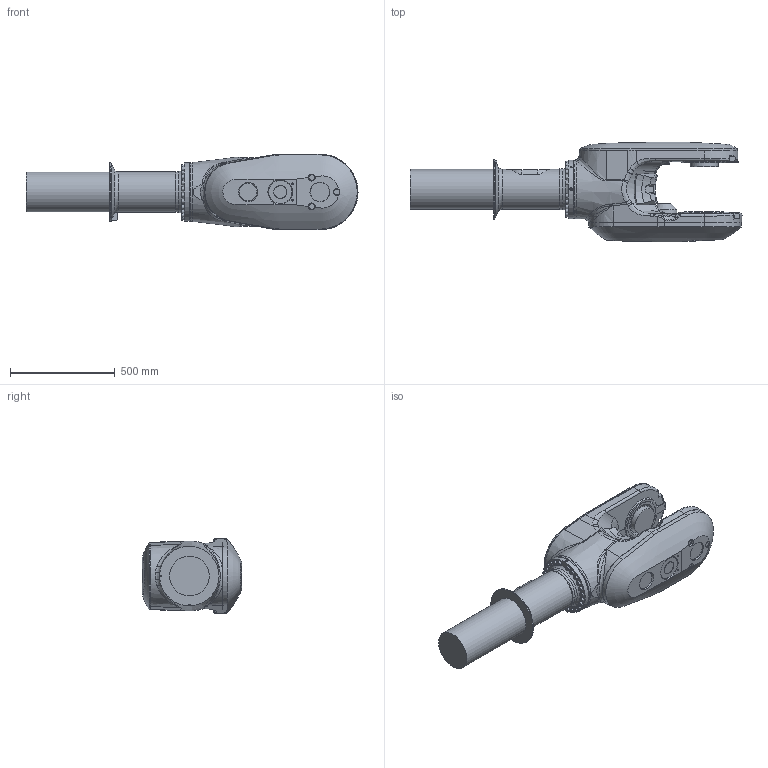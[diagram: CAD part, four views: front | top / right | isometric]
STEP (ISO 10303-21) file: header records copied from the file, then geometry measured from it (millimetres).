
FILE_DESCRIPTION (( 'STEP AP214' ), '1' );
FILE_NAME ('IRB7710_All-285_OC_00_LINK04_CAD.step', '2026-01-28T09:31:09', ( '' ), ( '' ), 'SwSTEP 2.0', 'SolidWorks 2024', '' );
FILE_SCHEMA (( 'AUTOMOTIVE_DESIGN' ));
Length unit declared in the file: millimetre
Products named in the file (1): IRB7710_All-285_OC_00_LINK04_CAD
Bounding box: 1586.38 x 475.5 x 362.3 mm (x, y, z)
Volume: 92612131.2 mm3; surface area: 1925910.5 mm2
Topology: 1 solids, 1 shells, 631 faces, 1592 edges, 1028 vertices
Faces by surface type: plane 265, bspline 142, cylinder 115, cone 103, torus 6
Full cylindrical faces by diameter (mm): 4.8 x2, 6.8 x4, 8.3 x2, 10.5 x1, 12 x3, 17.9 x2, 18 x2, 18.27 x25, 24 x1, 27 x1, 28 x4, 90 x1, 134 x1, 140 x1, 189.5 x1, 190 x3, 192 x1, 195 x1, 280 x2
Entity records: 36587 total; most frequent: CARTESIAN_POINT 16879, ORIENTED_EDGE 2828, DIRECTION 2176, EDGE_CURVE 1414, VERTEX_POINT 958, AXIS2_PLACEMENT_3D 827, EDGE_LOOP 804, FACE_OUTER_BOUND 695
